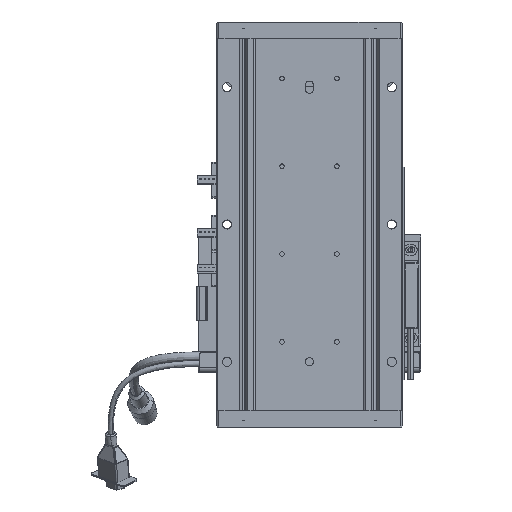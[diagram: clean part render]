
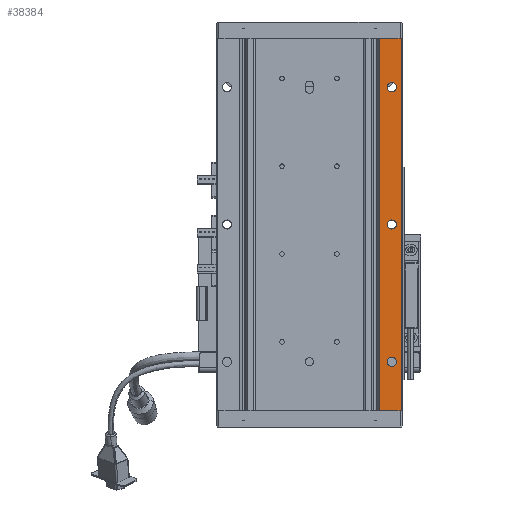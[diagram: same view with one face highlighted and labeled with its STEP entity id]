
A CAD part, front view. The second image highlights one B-rep face of the part: STEP entity #38384.
In plain terms, the highlighted planar face has unit normal (0, -1, 0).
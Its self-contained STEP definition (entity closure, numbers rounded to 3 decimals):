
#943 = VECTOR ( 'NONE', #59759, 1000. ) ;
#1170 = CARTESIAN_POINT ( 'NONE',  ( 3333.53, 1428.268, 271. ) ) ;
#1423 = CARTESIAN_POINT ( 'NONE',  ( 3326.78, 1428.268, 38.8 ) ) ;
#1904 = AXIS2_PLACEMENT_3D ( 'NONE', #15030, #50129, #20095 ) ;
#2788 = EDGE_LOOP ( 'NONE', ( #46883, #6648 ) ) ;
#2803 = ORIENTED_EDGE ( 'NONE', *, *, #49453, .T. ) ;
#3516 = CARTESIAN_POINT ( 'NONE',  ( 3326.78, 1428.268, 35.5 ) ) ;
#3550 = FACE_BOUND ( 'NONE', #43553, .T. ) ;
#4608 = CARTESIAN_POINT ( 'NONE',  ( 3317.768, 1428.268, 271. ) ) ;
#5192 = DIRECTION ( 'NONE',  ( 0., 0., 1. ) ) ;
#5527 = CARTESIAN_POINT ( 'NONE',  ( 3326.78, 1428.268, 35.5 ) ) ;
#6648 = ORIENTED_EDGE ( 'NONE', *, *, #46748, .T. ) ;
#6730 = CIRCLE ( 'NONE', #41950, 3.3 ) ;
#8522 = DIRECTION ( 'NONE',  ( 0., 0., 1. ) ) ;
#8623 = ORIENTED_EDGE ( 'NONE', *, *, #15225, .T. ) ;
#9364 = ORIENTED_EDGE ( 'NONE', *, *, #56379, .F. ) ;
#9864 = CARTESIAN_POINT ( 'NONE',  ( 3333.53, 1428.268, 271. ) ) ;
#9895 = ORIENTED_EDGE ( 'NONE', *, *, #36693, .F. ) ;
#9955 = LINE ( 'NONE', #9864, #45181 ) ;
#10365 = EDGE_LOOP ( 'NONE', ( #2803, #8623 ) ) ;
#10739 = DIRECTION ( 'NONE',  ( 0., 0., 1. ) ) ;
#11033 = ORIENTED_EDGE ( 'NONE', *, *, #21221, .T. ) ;
#12245 = CIRCLE ( 'NONE', #63747, 3.3 ) ;
#13144 = VECTOR ( 'NONE', #29912, 1000. ) ;
#13277 = CARTESIAN_POINT ( 'NONE',  ( 3326.78, 1428.268, 138.8 ) ) ;
#13480 = DIRECTION ( 'NONE',  ( -1., 0., 0. ) ) ;
#15030 = CARTESIAN_POINT ( 'NONE',  ( 3187.99, 1428.268, 0. ) ) ;
#15225 = EDGE_CURVE ( 'NONE', #20649, #47229, #48214, .T. ) ;
#17729 = VERTEX_POINT ( 'NONE', #31323 ) ;
#18246 = DIRECTION ( 'NONE',  ( 0., 1., 0. ) ) ;
#18885 = ORIENTED_EDGE ( 'NONE', *, *, #24429, .T. ) ;
#19324 = CARTESIAN_POINT ( 'NONE',  ( 3333.53, 1428.268, 0. ) ) ;
#20095 = DIRECTION ( 'NONE',  ( 0., 0., 1. ) ) ;
#20219 = DIRECTION ( 'NONE',  ( 0., 1., 0. ) ) ;
#20649 = VERTEX_POINT ( 'NONE', #40716 ) ;
#20761 = DIRECTION ( 'NONE',  ( 0., 1., 0. ) ) ;
#21221 = EDGE_CURVE ( 'NONE', #47829, #52727, #58274, .T. ) ;
#21500 = ORIENTED_EDGE ( 'NONE', *, *, #56495, .F. ) ;
#21925 = LINE ( 'NONE', #28370, #58799 ) ;
#24429 = EDGE_CURVE ( 'NONE', #31043, #61482, #21925, .T. ) ;
#25155 = DIRECTION ( 'NONE',  ( 0., 0., 1. ) ) ;
#25739 = CARTESIAN_POINT ( 'NONE',  ( 3329.68, 1428.268, 0. ) ) ;
#27161 = EDGE_CURVE ( 'NONE', #52727, #47829, #6730, .T. ) ;
#28370 = CARTESIAN_POINT ( 'NONE',  ( 3187.99, 1428.268, 271. ) ) ;
#29912 = DIRECTION ( 'NONE',  ( -1., 0., 0. ) ) ;
#30062 = CARTESIAN_POINT ( 'NONE',  ( 3326.78, 1428.268, 135.5 ) ) ;
#30279 = DIRECTION ( 'NONE',  ( 0., 0., 1. ) ) ;
#31043 = VERTEX_POINT ( 'NONE', #1170 ) ;
#31323 = CARTESIAN_POINT ( 'NONE',  ( 3317.768, 1428.268, 0. ) ) ;
#32189 = LINE ( 'NONE', #4608, #943 ) ;
#32735 = DIRECTION ( 'NONE',  ( 0., 1., 0. ) ) ;
#33108 = CARTESIAN_POINT ( 'NONE',  ( 3326.78, 1428.268, 32.2 ) ) ;
#34549 = DIRECTION ( 'NONE',  ( 0., 0., -1. ) ) ;
#36693 = EDGE_CURVE ( 'NONE', #31043, #54152, #9955, .T. ) ;
#37833 = FACE_BOUND ( 'NONE', #10365, .T. ) ;
#38384 = ADVANCED_FACE ( 'NONE', ( #59928, #3550, #37833, #52043 ), #39739, .F. ) ;
#39027 = CARTESIAN_POINT ( 'NONE',  ( 3326.78, 1428.268, 232.2 ) ) ;
#39739 = PLANE ( 'NONE',  #1904 ) ;
#40203 = DIRECTION ( 'NONE',  ( 0., 1., 0. ) ) ;
#40716 = CARTESIAN_POINT ( 'NONE',  ( 3326.78, 1428.268, 132.2 ) ) ;
#41311 = LINE ( 'NONE', #25739, #13144 ) ;
#41382 = VERTEX_POINT ( 'NONE', #39027 ) ;
#41950 = AXIS2_PLACEMENT_3D ( 'NONE', #3516, #32735, #8522 ) ;
#43082 = EDGE_CURVE ( 'NONE', #50900, #41382, #12245, .T. ) ;
#43240 = ORIENTED_EDGE ( 'NONE', *, *, #27161, .T. ) ;
#43553 = EDGE_LOOP ( 'NONE', ( #43240, #11033 ) ) ;
#44452 = AXIS2_PLACEMENT_3D ( 'NONE', #48730, #18246, #58360 ) ;
#45016 = CARTESIAN_POINT ( 'NONE',  ( 3317.768, 1428.268, 271. ) ) ;
#45181 = VECTOR ( 'NONE', #34549, 1000. ) ;
#45196 = DIRECTION ( 'NONE',  ( 0., 1., 0. ) ) ;
#46318 = AXIS2_PLACEMENT_3D ( 'NONE', #50787, #40203, #25155 ) ;
#46748 = EDGE_CURVE ( 'NONE', #41382, #50900, #49451, .T. ) ;
#46883 = ORIENTED_EDGE ( 'NONE', *, *, #43082, .T. ) ;
#47229 = VERTEX_POINT ( 'NONE', #13277 ) ;
#47347 = AXIS2_PLACEMENT_3D ( 'NONE', #30062, #20219, #30279 ) ;
#47829 = VERTEX_POINT ( 'NONE', #33108 ) ;
#47830 = EDGE_LOOP ( 'NONE', ( #21500, #9895, #18885, #9364 ) ) ;
#48214 = CIRCLE ( 'NONE', #47347, 3.3 ) ;
#48730 = CARTESIAN_POINT ( 'NONE',  ( 3326.78, 1428.268, 235.5 ) ) ;
#49451 = CIRCLE ( 'NONE', #44452, 3.3 ) ;
#49453 = EDGE_CURVE ( 'NONE', #47229, #20649, #62742, .T. ) ;
#50129 = DIRECTION ( 'NONE',  ( 0., 1., 0. ) ) ;
#50787 = CARTESIAN_POINT ( 'NONE',  ( 3326.78, 1428.268, 135.5 ) ) ;
#50900 = VERTEX_POINT ( 'NONE', #53562 ) ;
#52043 = FACE_OUTER_BOUND ( 'NONE', #47830, .T. ) ;
#52727 = VERTEX_POINT ( 'NONE', #1423 ) ;
#53562 = CARTESIAN_POINT ( 'NONE',  ( 3326.78, 1428.268, 238.8 ) ) ;
#54152 = VERTEX_POINT ( 'NONE', #19324 ) ;
#56379 = EDGE_CURVE ( 'NONE', #17729, #61482, #32189, .T. ) ;
#56495 = EDGE_CURVE ( 'NONE', #54152, #17729, #41311, .T. ) ;
#58274 = CIRCLE ( 'NONE', #61012, 3.3 ) ;
#58360 = DIRECTION ( 'NONE',  ( 0., 0., 1. ) ) ;
#58799 = VECTOR ( 'NONE', #13480, 1000. ) ;
#59759 = DIRECTION ( 'NONE',  ( 0., 0., 1. ) ) ;
#59928 = FACE_BOUND ( 'NONE', #2788, .T. ) ;
#60991 = CARTESIAN_POINT ( 'NONE',  ( 3326.78, 1428.268, 235.5 ) ) ;
#61012 = AXIS2_PLACEMENT_3D ( 'NONE', #5527, #20761, #10739 ) ;
#61482 = VERTEX_POINT ( 'NONE', #45016 ) ;
#62742 = CIRCLE ( 'NONE', #46318, 3.3 ) ;
#63747 = AXIS2_PLACEMENT_3D ( 'NONE', #60991, #45196, #5192 ) ;
